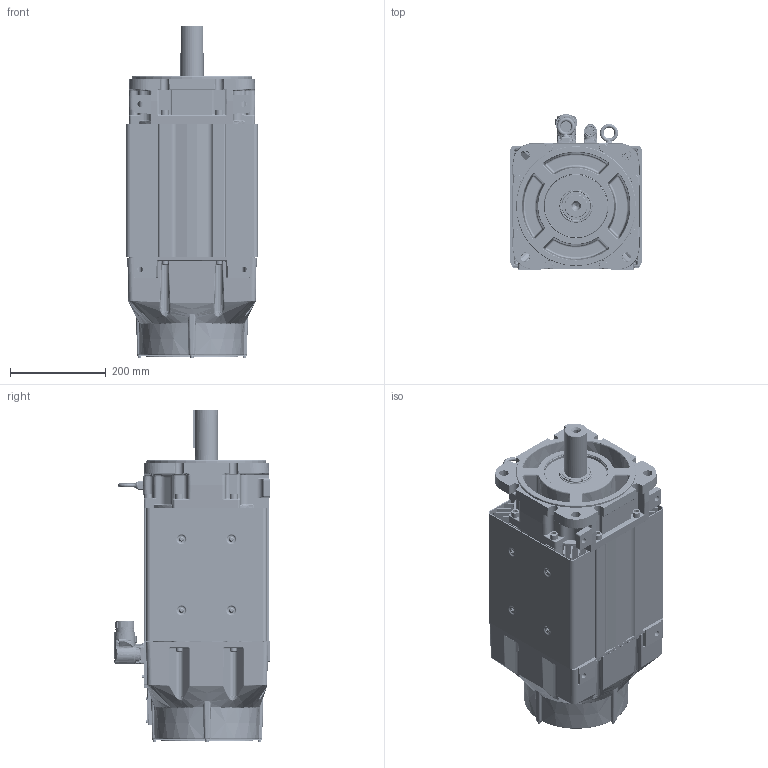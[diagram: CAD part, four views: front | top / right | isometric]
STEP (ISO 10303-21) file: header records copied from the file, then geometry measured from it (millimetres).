
FILE_DESCRIPTION((''),'2;1');
FILE_NAME('VPC-B3003A-YJ72FX_ASM','2016-09-27T',('SRGaddam'),('Rockwell Automation'),'PRO/ENGINEER BY PARAMETRIC TECHNOLOGY CORPORATION, 2012480','PRO/ENGINEER BY PARAMETRIC TECHNOLOGY CORPORATION, 2012480','');
FILE_SCHEMA(('CONFIG_CONTROL_DESIGN'));
Products named in the file (42): 10001404634_AF0; 10001404629_AF6; 10001404635_ASM; 10001585735; 10001441946; 10001737030; 10001448075; 10001587021; 10001405269_AF12; 10001405240_AF25; 10001405367_ASM; 10001946256; 10001956852; 10001989665; 10001713549_ASM; M4X7X14-SOCHD-CAP-SCR; 10001978970; 10001336508; 10001587431; CH4X063; 10001299929; 10001284567; 10000172464; 10001445961; 221404-Q12; 10000231113; 10002279234; 10001443420_ASM; 10001609981; 0002-5004; 10001586887; 10001439772; 0011-2084; 142403; 125284; 142403-1_ASM; M940_ASM; 142414_623; 135798_623; 142414-1_623_ASM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
Assembly tree (81 placements, depth 4):
  VPC-B3003A-YJ72FX_ASM
    10001404635_ASM
      10001404634_AF0
      10001404629_AF6
    10001585735  x8
    10001441946
    10001737030
    10001448075  x2
    10001587021  x8
    10001405367_ASM
      10001405269_AF12
      10001405240_AF25
    10001443420_ASM
      10001946256
      10001713549_ASM
        10001956852
        10001989665
      M4X7X14-SOCHD-CAP-SCR  x4
      10001978970
      10001336508
      10001587431
      CH4X063  x2
      10001299929
      10001284567
      10000172464  x4
      10001445961
      221404-Q12  x5
      10000231113
      10002279234
    10001609981
    0002-5004  x2
    10001586887  x6
    10001439772
    0011-2084
    M940_ASM
      142403-1_ASM
        142403
        125284
      221404-Q12  x4
    M623_ASM
      142414-1_623_ASM
        142414_623
        135798_623
      10000172464  x4
Bounding box: 275.91 x 324.15 x 692.35 mm (x, y, z)
Volume: 11605776.4 mm3; surface area: 2769908.2 mm2
Topology: 85 solids, 86 shells, 8042 faces, 19084 edges, 11471 vertices
Faces by surface type: cylinder 2443, plane 2249, bspline 1319, cone 1198, torus 685, sphere 142, extrusion 6
Entity records: 223631 total; most frequent: CARTESIAN_POINT 95272, ORIENTED_EDGE 27510, DIRECTION 25324, EDGE_CURVE 13755, AXIS2_PLACEMENT_3D 9773, VERTEX_POINT 8517, EDGE_LOOP 6204, VECTOR 5778
